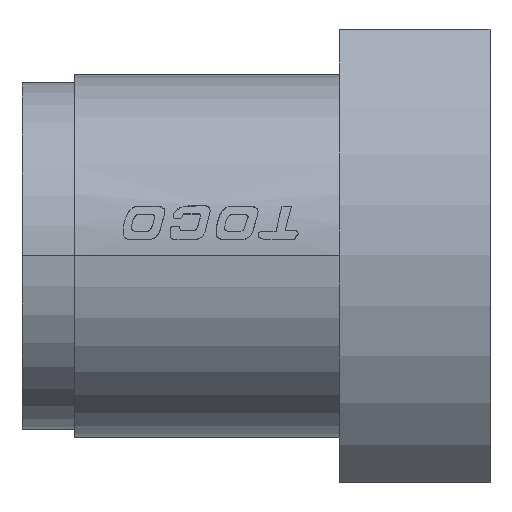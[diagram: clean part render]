
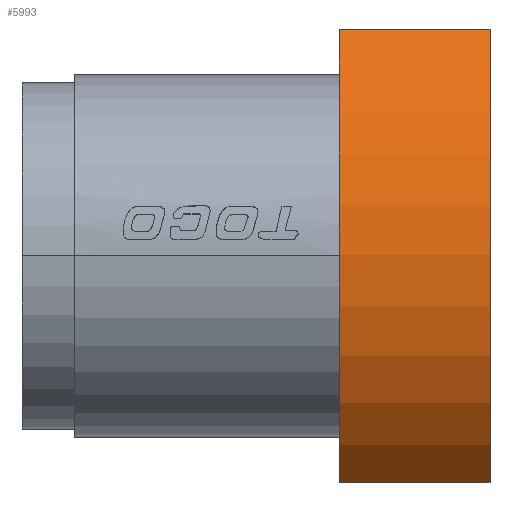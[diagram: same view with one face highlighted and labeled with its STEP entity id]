
A CAD part, top view. The second image highlights one B-rep face of the part: STEP entity #5993.
In plain terms, the highlighted cylindrical face has radius 20 mm (diameter 40 mm), a partial arc.
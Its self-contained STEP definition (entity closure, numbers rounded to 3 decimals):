
#238 = DIRECTION ( 'NONE',  ( 0., 0., -1. ) ) ;
#312 = DIRECTION ( 'NONE',  ( 1., 0., 0. ) ) ;
#333 = LINE ( 'NONE', #5545, #8586 ) ;
#591 = CARTESIAN_POINT ( 'NONE',  ( -24.5, 0., 0. ) ) ;
#598 = VERTEX_POINT ( 'NONE', #5174 ) ;
#789 = CIRCLE ( 'NONE', #3743, 20. ) ;
#1058 = CARTESIAN_POINT ( 'NONE',  ( -60., 0., 0. ) ) ;
#1142 = VERTEX_POINT ( 'NONE', #2424 ) ;
#1948 = CIRCLE ( 'NONE', #2250, 20. ) ;
#2250 = AXIS2_PLACEMENT_3D ( 'NONE', #591, #7432, #4160 ) ;
#2265 = DIRECTION ( 'NONE',  ( 0., 0., -1. ) ) ;
#2424 = CARTESIAN_POINT ( 'NONE',  ( -14.5, -15., 13.229 ) ) ;
#2768 = DIRECTION ( 'NONE',  ( -1., 0., 0. ) ) ;
#3038 = EDGE_LOOP ( 'NONE', ( #8661, #6424, #5761, #7341 ) ) ;
#3586 = EDGE_CURVE ( 'NONE', #7421, #1142, #6629, .T. ) ;
#3743 = AXIS2_PLACEMENT_3D ( 'NONE', #3754, #6561, #238 ) ;
#3754 = CARTESIAN_POINT ( 'NONE',  ( -14.5, 0., 0. ) ) ;
#3887 = DIRECTION ( 'NONE',  ( 1., 0., 0. ) ) ;
#4160 = DIRECTION ( 'NONE',  ( 0., 0., -1. ) ) ;
#4376 = EDGE_CURVE ( 'NONE', #1142, #6957, #789, .T. ) ;
#4569 = EDGE_CURVE ( 'NONE', #7421, #598, #1948, .T. ) ;
#4575 = FACE_OUTER_BOUND ( 'NONE', #3038, .T. ) ;
#4643 = CARTESIAN_POINT ( 'NONE',  ( -60., -15., 13.229 ) ) ;
#5174 = CARTESIAN_POINT ( 'NONE',  ( -24.5, 15., 13.229 ) ) ;
#5545 = CARTESIAN_POINT ( 'NONE',  ( -14.5, 15., 13.229 ) ) ;
#5761 = ORIENTED_EDGE ( 'NONE', *, *, #4569, .F. ) ;
#5946 = CARTESIAN_POINT ( 'NONE',  ( -24.5, -15., 13.229 ) ) ;
#5993 = ADVANCED_FACE ( 'NONE', ( #4575 ), #8038, .T. ) ;
#6238 = CARTESIAN_POINT ( 'NONE',  ( -14.5, 15., 13.229 ) ) ;
#6424 = ORIENTED_EDGE ( 'NONE', *, *, #8690, .T. ) ;
#6561 = DIRECTION ( 'NONE',  ( -1., 0., 0. ) ) ;
#6629 = LINE ( 'NONE', #4643, #7841 ) ;
#6957 = VERTEX_POINT ( 'NONE', #6238 ) ;
#7341 = ORIENTED_EDGE ( 'NONE', *, *, #3586, .T. ) ;
#7421 = VERTEX_POINT ( 'NONE', #5946 ) ;
#7432 = DIRECTION ( 'NONE',  ( -1., 0., 0. ) ) ;
#7841 = VECTOR ( 'NONE', #312, 1000. ) ;
#7852 = AXIS2_PLACEMENT_3D ( 'NONE', #1058, #3887, #2265 ) ;
#8038 = CYLINDRICAL_SURFACE ( 'NONE', #7852, 20. ) ;
#8586 = VECTOR ( 'NONE', #2768, 1000. ) ;
#8661 = ORIENTED_EDGE ( 'NONE', *, *, #4376, .T. ) ;
#8690 = EDGE_CURVE ( 'NONE', #6957, #598, #333, .T. ) ;
